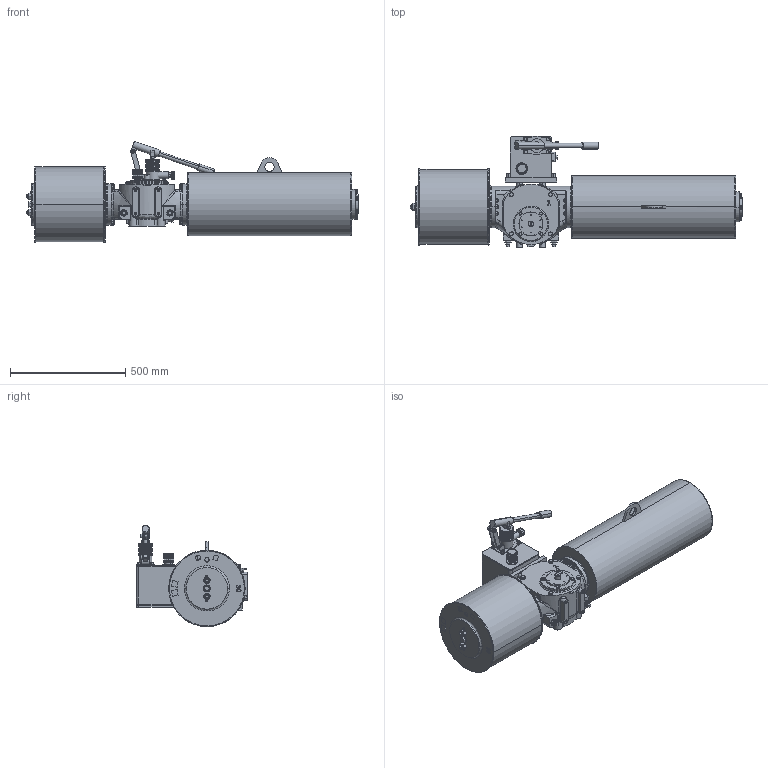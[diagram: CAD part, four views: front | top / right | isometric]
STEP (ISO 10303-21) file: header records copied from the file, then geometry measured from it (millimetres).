
FILE_DESCRIPTION (( 'STEP AP203' ), '1' );
FILE_NAME ('VTS2-300-SR-MH-FC.STEP', '2023-01-01T08:05:53', ( '' ), ( '' ), 'SwSTEP 2.0', 'SolidWorks 2020', '' );
FILE_SCHEMA (( 'CONFIG_CONTROL_DESIGN' ));
Products named in the file (1): VTS2-300-SR-MH-FC
Bounding box: 1441 x 483.4 x 439.77 mm (x, y, z)
Volume: 82996801.8 mm3; surface area: 2475784.4 mm2
Topology: 48 solids, 50 shells, 2424 faces, 5991 edges, 3795 vertices
Faces by surface type: plane 946, cylinder 852, cone 461, bspline 161, torus 4
Entity records: 87765 total; most frequent: CARTESIAN_POINT 30825, DIRECTION 11930, ORIENTED_EDGE 11878, EDGE_CURVE 5939, AXIS2_PLACEMENT_3D 4712, VERTEX_POINT 3795, EDGE_LOOP 2740, LINE 2506
